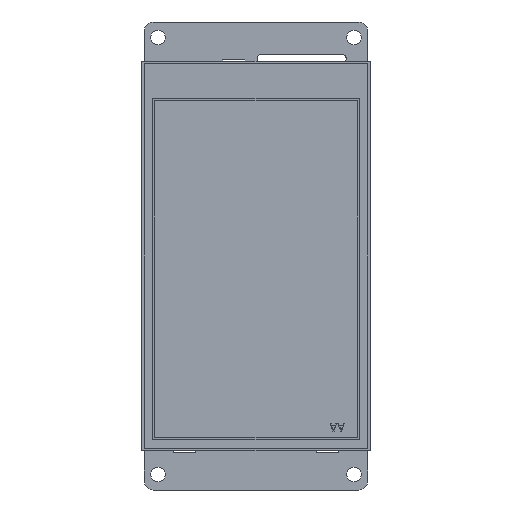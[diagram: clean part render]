
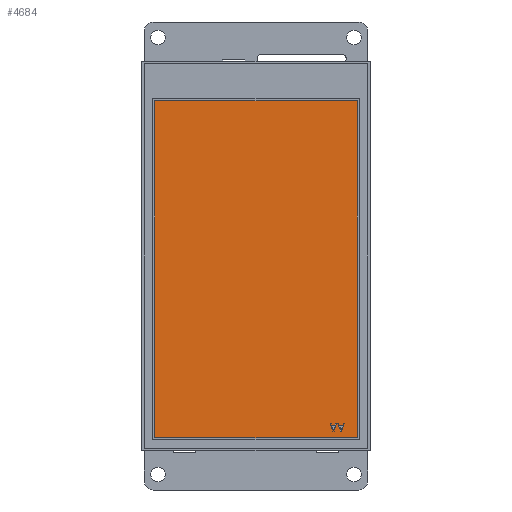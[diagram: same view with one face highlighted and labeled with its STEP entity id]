
A CAD part, front view. The second image highlights one B-rep face of the part: STEP entity #4684.
In plain terms, the highlighted planar face has unit normal (0, -1, 0) as drawn and (0, 1, 0) by its records, which use the part's own axes.
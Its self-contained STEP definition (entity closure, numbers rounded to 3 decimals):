
#3996=DIRECTION('',(0.,0.,1.));
#3997=VECTOR('',#3996,75.6);
#3998=CARTESIAN_POINT('',(-22.68,1.04,-40.75));
#3999=LINE('',#3998,#3997);
#4000=DIRECTION('',(-1.,0.,0.));
#4001=VECTOR('',#4000,45.36);
#4002=CARTESIAN_POINT('',(22.68,1.04,-40.75));
#4003=LINE('',#4002,#4001);
#4004=DIRECTION('',(0.,0.,-1.));
#4005=VECTOR('',#4004,75.6);
#4006=CARTESIAN_POINT('',(22.68,1.04,34.85));
#4007=LINE('',#4006,#4005);
#4008=DIRECTION('',(1.,0.,0.));
#4009=VECTOR('',#4008,45.36);
#4010=CARTESIAN_POINT('',(-22.68,1.04,34.85));
#4011=LINE('',#4010,#4009);
#4012=DIRECTION('',(0.316,0.,0.949));
#4013=VECTOR('',#4012,1.834);
#4014=CARTESIAN_POINT('',(-18.953,1.04,-39.278));
#4015=LINE('',#4014,#4013);
#4016=DIRECTION('',(1.,0.,0.));
#4017=VECTOR('',#4016,0.29);
#4018=CARTESIAN_POINT('',(-19.243,1.04,-39.278));
#4019=LINE('',#4018,#4017);
#4020=DIRECTION('',(0.316,0.,-0.949));
#4021=VECTOR('',#4020,1.834);
#4022=CARTESIAN_POINT('',(-19.823,1.04,-37.538));
#4023=LINE('',#4022,#4021);
#4024=DIRECTION('',(-1.,0.,0.));
#4025=VECTOR('',#4024,0.218);
#4026=CARTESIAN_POINT('',(-19.605,1.04,-37.538));
#4027=LINE('',#4026,#4025);
#4028=DIRECTION('',(-0.31,0.,0.951));
#4029=VECTOR('',#4028,0.467);
#4030=CARTESIAN_POINT('',(-19.46,1.04,-37.982));
#4031=LINE('',#4030,#4029);
#4032=DIRECTION('',(-1.,0.,0.));
#4033=VECTOR('',#4032,0.725);
#4034=CARTESIAN_POINT('',(-18.735,1.04,-37.982));
#4035=LINE('',#4034,#4033);
#4036=DIRECTION('',(-0.31,0.,-0.951));
#4037=VECTOR('',#4036,0.467);
#4038=CARTESIAN_POINT('',(-18.59,1.04,-37.538));
#4039=LINE('',#4038,#4037);
#4040=DIRECTION('',(-1.,0.,0.));
#4041=VECTOR('',#4040,0.218);
#4042=CARTESIAN_POINT('',(-18.373,1.04,-37.538));
#4043=LINE('',#4042,#4041);
#4056=DIRECTION('',(0.316,0.,0.949));
#4057=VECTOR('',#4056,1.834);
#4058=CARTESIAN_POINT('',(-17.213,1.04,-39.278));
#4059=LINE('',#4058,#4057);
#4060=DIRECTION('',(1.,0.,0.));
#4061=VECTOR('',#4060,0.29);
#4062=CARTESIAN_POINT('',(-17.503,1.04,-39.278));
#4063=LINE('',#4062,#4061);
#4064=DIRECTION('',(0.316,0.,-0.949));
#4065=VECTOR('',#4064,1.834);
#4066=CARTESIAN_POINT('',(-18.083,1.04,-37.538));
#4067=LINE('',#4066,#4065);
#4068=DIRECTION('',(-1.,0.,0.));
#4069=VECTOR('',#4068,0.218);
#4070=CARTESIAN_POINT('',(-17.865,1.04,-37.538));
#4071=LINE('',#4070,#4069);
#4072=DIRECTION('',(-0.31,0.,0.951));
#4073=VECTOR('',#4072,0.467);
#4074=CARTESIAN_POINT('',(-17.72,1.04,-37.982));
#4075=LINE('',#4074,#4073);
#4076=DIRECTION('',(-1.,0.,0.));
#4077=VECTOR('',#4076,0.725);
#4078=CARTESIAN_POINT('',(-16.995,1.04,-37.982));
#4079=LINE('',#4078,#4077);
#4080=DIRECTION('',(-0.31,0.,-0.951));
#4081=VECTOR('',#4080,0.467);
#4082=CARTESIAN_POINT('',(-16.85,1.04,-37.538));
#4083=LINE('',#4082,#4081);
#4084=DIRECTION('',(-1.,0.,0.));
#4085=VECTOR('',#4084,0.218);
#4086=CARTESIAN_POINT('',(-16.633,1.04,-37.538));
#4087=LINE('',#4086,#4085);
#4220=CARTESIAN_POINT('',(-22.68,1.04,-40.75));
#4221=CARTESIAN_POINT('',(-22.68,1.04,34.85));
#4222=VERTEX_POINT('',#4220);
#4223=VERTEX_POINT('',#4221);
#4224=CARTESIAN_POINT('',(22.68,1.04,34.85));
#4225=VERTEX_POINT('',#4224);
#4226=CARTESIAN_POINT('',(22.68,1.04,-40.75));
#4227=VERTEX_POINT('',#4226);
#4228=CARTESIAN_POINT('',(-18.953,1.04,-39.278));
#4229=CARTESIAN_POINT('',(-18.373,1.04,-37.538));
#4230=VERTEX_POINT('',#4228);
#4231=VERTEX_POINT('',#4229);
#4232=CARTESIAN_POINT('',(-18.59,1.04,-37.538));
#4233=VERTEX_POINT('',#4232);
#4234=CARTESIAN_POINT('',(-18.735,1.04,-37.982));
#4235=VERTEX_POINT('',#4234);
#4236=CARTESIAN_POINT('',(-19.46,1.04,-37.982));
#4237=VERTEX_POINT('',#4236);
#4238=CARTESIAN_POINT('',(-19.605,1.04,-37.538));
#4239=VERTEX_POINT('',#4238);
#4240=CARTESIAN_POINT('',(-19.823,1.04,-37.538));
#4241=VERTEX_POINT('',#4240);
#4242=CARTESIAN_POINT('',(-19.243,1.04,-39.278));
#4243=VERTEX_POINT('',#4242);
#4250=CARTESIAN_POINT('',(-17.213,1.04,-39.278));
#4251=CARTESIAN_POINT('',(-16.633,1.04,-37.538));
#4252=VERTEX_POINT('',#4250);
#4253=VERTEX_POINT('',#4251);
#4254=CARTESIAN_POINT('',(-16.85,1.04,-37.538));
#4255=VERTEX_POINT('',#4254);
#4256=CARTESIAN_POINT('',(-16.995,1.04,-37.982));
#4257=VERTEX_POINT('',#4256);
#4258=CARTESIAN_POINT('',(-17.72,1.04,-37.982));
#4259=VERTEX_POINT('',#4258);
#4260=CARTESIAN_POINT('',(-17.865,1.04,-37.538));
#4261=VERTEX_POINT('',#4260);
#4262=CARTESIAN_POINT('',(-18.083,1.04,-37.538));
#4263=VERTEX_POINT('',#4262);
#4264=CARTESIAN_POINT('',(-17.503,1.04,-39.278));
#4265=VERTEX_POINT('',#4264);
#4637=CARTESIAN_POINT('',(0.,1.04,0.));
#4638=DIRECTION('',(0.,1.,0.));
#4639=DIRECTION('',(1.,0.,0.));
#4640=AXIS2_PLACEMENT_3D('',#4637,#4638,#4639);
#4641=PLANE('',#4640);
#4642=ORIENTED_EDGE('',*,*,#4589,.F.);
#4643=ORIENTED_EDGE('',*,*,#4604,.F.);
#4644=ORIENTED_EDGE('',*,*,#4618,.F.);
#4645=ORIENTED_EDGE('',*,*,#4631,.F.);
#4646=EDGE_LOOP('',(#4642,#4643,#4644,#4645));
#4647=FACE_OUTER_BOUND('',#4646,.F.);
#4649=ORIENTED_EDGE('',*,*,#4648,.F.);
#4651=ORIENTED_EDGE('',*,*,#4650,.F.);
#4653=ORIENTED_EDGE('',*,*,#4652,.F.);
#4655=ORIENTED_EDGE('',*,*,#4654,.F.);
#4657=ORIENTED_EDGE('',*,*,#4656,.F.);
#4659=ORIENTED_EDGE('',*,*,#4658,.F.);
#4661=ORIENTED_EDGE('',*,*,#4660,.F.);
#4663=ORIENTED_EDGE('',*,*,#4662,.F.);
#4664=EDGE_LOOP('',(#4649,#4651,#4653,#4655,#4657,#4659,#4661,#4663));
#4665=FACE_BOUND('',#4664,.F.);
#4667=ORIENTED_EDGE('',*,*,#4666,.F.);
#4669=ORIENTED_EDGE('',*,*,#4668,.F.);
#4671=ORIENTED_EDGE('',*,*,#4670,.F.);
#4673=ORIENTED_EDGE('',*,*,#4672,.F.);
#4675=ORIENTED_EDGE('',*,*,#4674,.F.);
#4677=ORIENTED_EDGE('',*,*,#4676,.F.);
#4679=ORIENTED_EDGE('',*,*,#4678,.F.);
#4681=ORIENTED_EDGE('',*,*,#4680,.F.);
#4682=EDGE_LOOP('',(#4667,#4669,#4671,#4673,#4675,#4677,#4679,#4681));
#4683=FACE_BOUND('',#4682,.F.);
#4589=EDGE_CURVE('',#4222,#4223,#3999,.T.);
#4604=EDGE_CURVE('',#4227,#4222,#4003,.T.);
#4618=EDGE_CURVE('',#4225,#4227,#4007,.T.);
#4631=EDGE_CURVE('',#4223,#4225,#4011,.T.);
#4648=EDGE_CURVE('',#4230,#4231,#4015,.T.);
#4650=EDGE_CURVE('',#4243,#4230,#4019,.T.);
#4652=EDGE_CURVE('',#4241,#4243,#4023,.T.);
#4654=EDGE_CURVE('',#4239,#4241,#4027,.T.);
#4656=EDGE_CURVE('',#4237,#4239,#4031,.T.);
#4658=EDGE_CURVE('',#4235,#4237,#4035,.T.);
#4660=EDGE_CURVE('',#4233,#4235,#4039,.T.);
#4662=EDGE_CURVE('',#4231,#4233,#4043,.T.);
#4666=EDGE_CURVE('',#4252,#4253,#4059,.T.);
#4668=EDGE_CURVE('',#4265,#4252,#4063,.T.);
#4670=EDGE_CURVE('',#4263,#4265,#4067,.T.);
#4672=EDGE_CURVE('',#4261,#4263,#4071,.T.);
#4674=EDGE_CURVE('',#4259,#4261,#4075,.T.);
#4676=EDGE_CURVE('',#4257,#4259,#4079,.T.);
#4678=EDGE_CURVE('',#4255,#4257,#4083,.T.);
#4680=EDGE_CURVE('',#4253,#4255,#4087,.T.);
#4684=ADVANCED_FACE('',(#4647,#4665,#4683),#4641,.T.);
